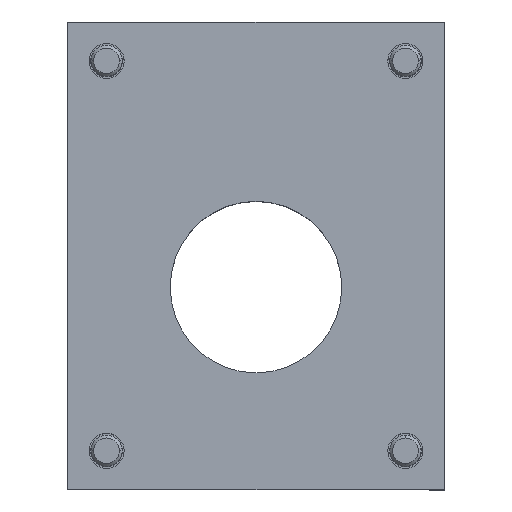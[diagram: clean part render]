
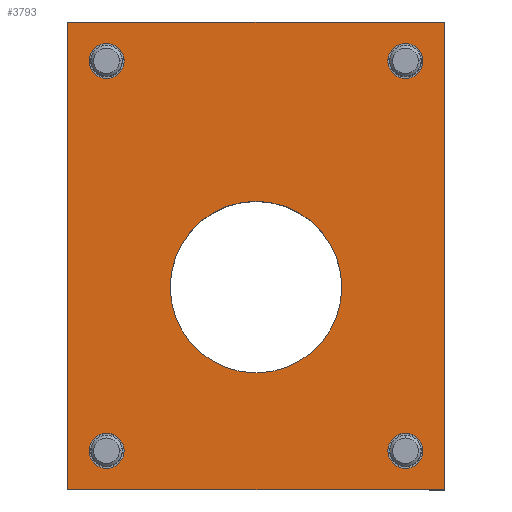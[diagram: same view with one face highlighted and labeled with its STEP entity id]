
A CAD part, top view. The second image highlights one B-rep face of the part: STEP entity #3793.
In plain terms, the highlighted planar face has unit normal (0, 0, 1).
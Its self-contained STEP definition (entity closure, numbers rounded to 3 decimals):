
#5 = VERTEX_POINT ( 'NONE', #2284 ) ;
#26 = AXIS2_PLACEMENT_3D ( 'NONE', #1117, #2102, #3044 ) ;
#90 = PLANE ( 'NONE',  #3304 ) ;
#93 = CARTESIAN_POINT ( 'NONE',  ( -57.5, -69.75, -49.5 ) ) ;
#95 = EDGE_CURVE ( 'NONE', #2190, #4000, #3979, .T. ) ;
#130 = CARTESIAN_POINT ( 'NONE',  ( -72.5, -78., -49.5 ) ) ;
#136 = ORIENTED_EDGE ( 'NONE', *, *, #3661, .F. ) ;
#156 = AXIS2_PLACEMENT_3D ( 'NONE', #1658, #3271, #2929 ) ;
#162 = CIRCLE ( 'NONE', #2694, 6.75 ) ;
#170 = DIRECTION ( 'NONE',  ( 0., 0., -1. ) ) ;
#237 = DIRECTION ( 'NONE',  ( 0., 1., 0. ) ) ;
#278 = CARTESIAN_POINT ( 'NONE',  ( -57.5, -63., -49.5 ) ) ;
#280 = VERTEX_POINT ( 'NONE', #953 ) ;
#286 = EDGE_CURVE ( 'NONE', #3547, #2820, #1435, .T. ) ;
#420 = ORIENTED_EDGE ( 'NONE', *, *, #2194, .F. ) ;
#445 = VERTEX_POINT ( 'NONE', #486 ) ;
#485 = AXIS2_PLACEMENT_3D ( 'NONE', #3041, #170, #3697 ) ;
#486 = CARTESIAN_POINT ( 'NONE',  ( -72.5, -78., -49.5 ) ) ;
#519 = VERTEX_POINT ( 'NONE', #841 ) ;
#611 = CIRCLE ( 'NONE', #2547, 6.75 ) ;
#646 = ORIENTED_EDGE ( 'NONE', *, *, #983, .T. ) ;
#714 = FACE_BOUND ( 'NONE', #3010, .T. ) ;
#736 = ORIENTED_EDGE ( 'NONE', *, *, #893, .F. ) ;
#779 = CARTESIAN_POINT ( 'NONE',  ( 57.5, 93.75, -49.5 ) ) ;
#841 = CARTESIAN_POINT ( 'NONE',  ( -57.5, -56.25, -49.5 ) ) ;
#873 = ORIENTED_EDGE ( 'NONE', *, *, #95, .T. ) ;
#887 = DIRECTION ( 'NONE',  ( 0., 0., -1. ) ) ;
#893 = EDGE_CURVE ( 'NONE', #280, #4045, #3339, .T. ) ;
#953 = CARTESIAN_POINT ( 'NONE',  ( 72.5, 102., -49.5 ) ) ;
#962 = CIRCLE ( 'NONE', #156, 6.75 ) ;
#968 = EDGE_CURVE ( 'NONE', #2197, #519, #1029, .T. ) ;
#983 = EDGE_CURVE ( 'NONE', #3822, #2253, #2562, .T. ) ;
#1029 = CIRCLE ( 'NONE', #2498, 6.75 ) ;
#1056 = CARTESIAN_POINT ( 'NONE',  ( -57.5, 87., -49.5 ) ) ;
#1107 = ORIENTED_EDGE ( 'NONE', *, *, #3042, .T. ) ;
#1117 = CARTESIAN_POINT ( 'NONE',  ( 0., 0., -49.5 ) ) ;
#1124 = DIRECTION ( 'NONE',  ( 0., 0., -1. ) ) ;
#1171 = LINE ( 'NONE', #2440, #3703 ) ;
#1225 = EDGE_CURVE ( 'NONE', #3395, #2863, #162, .T. ) ;
#1249 = CARTESIAN_POINT ( 'NONE',  ( 72.5, -78., -49.5 ) ) ;
#1278 = DIRECTION ( 'NONE',  ( 0., 0., -1. ) ) ;
#1302 = AXIS2_PLACEMENT_3D ( 'NONE', #3496, #2230, #3520 ) ;
#1306 = VECTOR ( 'NONE', #3698, 1000. ) ;
#1325 = EDGE_CURVE ( 'NONE', #4000, #2190, #1684, .T. ) ;
#1338 = CARTESIAN_POINT ( 'NONE',  ( 57.5, -56.25, -49.5 ) ) ;
#1348 = EDGE_LOOP ( 'NONE', ( #3576, #873 ) ) ;
#1372 = DIRECTION ( 'NONE',  ( -1., 0., 0. ) ) ;
#1407 = DIRECTION ( 'NONE',  ( 0., -1., 0. ) ) ;
#1435 = CIRCLE ( 'NONE', #1302, 6.75 ) ;
#1438 = CARTESIAN_POINT ( 'NONE',  ( 57.5, -69.75, -49.5 ) ) ;
#1473 = DIRECTION ( 'NONE',  ( 0., 0., -1. ) ) ;
#1496 = CIRCLE ( 'NONE', #485, 33. ) ;
#1555 = DIRECTION ( 'NONE',  ( 0., 0., -1. ) ) ;
#1622 = CIRCLE ( 'NONE', #2081, 6.75 ) ;
#1658 = CARTESIAN_POINT ( 'NONE',  ( 57.5, 87., -49.5 ) ) ;
#1679 = FACE_BOUND ( 'NONE', #2826, .T. ) ;
#1684 = CIRCLE ( 'NONE', #2415, 6.75 ) ;
#1724 = LINE ( 'NONE', #130, #3446 ) ;
#1736 = CARTESIAN_POINT ( 'NONE',  ( 57.5, -63., -49.5 ) ) ;
#1776 = CARTESIAN_POINT ( 'NONE',  ( 0., 33., -49.5 ) ) ;
#1902 = LINE ( 'NONE', #2857, #3031 ) ;
#1926 = CARTESIAN_POINT ( 'NONE',  ( -57.5, 80.25, -49.5 ) ) ;
#2001 = CARTESIAN_POINT ( 'NONE',  ( 57.5, 80.25, -49.5 ) ) ;
#2062 = ORIENTED_EDGE ( 'NONE', *, *, #3511, .F. ) ;
#2081 = AXIS2_PLACEMENT_3D ( 'NONE', #278, #1555, #237 ) ;
#2102 = DIRECTION ( 'NONE',  ( 0., 0., -1. ) ) ;
#2190 = VERTEX_POINT ( 'NONE', #1438 ) ;
#2194 = EDGE_CURVE ( 'NONE', #4045, #445, #1724, .T. ) ;
#2197 = VERTEX_POINT ( 'NONE', #93 ) ;
#2230 = DIRECTION ( 'NONE',  ( 0., 0., -1. ) ) ;
#2253 = VERTEX_POINT ( 'NONE', #1776 ) ;
#2284 = CARTESIAN_POINT ( 'NONE',  ( -72.5, 102., -49.5 ) ) ;
#2299 = ORIENTED_EDGE ( 'NONE', *, *, #2645, .T. ) ;
#2301 = FACE_BOUND ( 'NONE', #1348, .T. ) ;
#2367 = FACE_BOUND ( 'NONE', #3429, .T. ) ;
#2415 = AXIS2_PLACEMENT_3D ( 'NONE', #1736, #1473, #3942 ) ;
#2418 = EDGE_CURVE ( 'NONE', #2863, #3395, #962, .T. ) ;
#2426 = ORIENTED_EDGE ( 'NONE', *, *, #286, .T. ) ;
#2440 = CARTESIAN_POINT ( 'NONE',  ( 72.5, 102., -49.5 ) ) ;
#2472 = CARTESIAN_POINT ( 'NONE',  ( 57.5, -63., -49.5 ) ) ;
#2496 = AXIS2_PLACEMENT_3D ( 'NONE', #2472, #887, #4064 ) ;
#2498 = AXIS2_PLACEMENT_3D ( 'NONE', #3323, #3405, #3995 ) ;
#2529 = ORIENTED_EDGE ( 'NONE', *, *, #2418, .T. ) ;
#2547 = AXIS2_PLACEMENT_3D ( 'NONE', #1056, #1124, #4003 ) ;
#2562 = CIRCLE ( 'NONE', #26, 33. ) ;
#2640 = DIRECTION ( 'NONE',  ( 0., 0., 1. ) ) ;
#2645 = EDGE_CURVE ( 'NONE', #2253, #3822, #1496, .T. ) ;
#2656 = CARTESIAN_POINT ( 'NONE',  ( 72.5, -78., -49.5 ) ) ;
#2694 = AXIS2_PLACEMENT_3D ( 'NONE', #2886, #1278, #3838 ) ;
#2820 = VERTEX_POINT ( 'NONE', #1926 ) ;
#2826 = EDGE_LOOP ( 'NONE', ( #2994, #2529 ) ) ;
#2857 = CARTESIAN_POINT ( 'NONE',  ( -72.5, 102., -49.5 ) ) ;
#2863 = VERTEX_POINT ( 'NONE', #2001 ) ;
#2886 = CARTESIAN_POINT ( 'NONE',  ( 57.5, 87., -49.5 ) ) ;
#2929 = DIRECTION ( 'NONE',  ( 0., 1., 0. ) ) ;
#2945 = EDGE_LOOP ( 'NONE', ( #2062, #136, #420, #736 ) ) ;
#2994 = ORIENTED_EDGE ( 'NONE', *, *, #1225, .T. ) ;
#3010 = EDGE_LOOP ( 'NONE', ( #1107, #4120 ) ) ;
#3031 = VECTOR ( 'NONE', #4149, 1000. ) ;
#3041 = CARTESIAN_POINT ( 'NONE',  ( 0., 0., -49.5 ) ) ;
#3042 = EDGE_CURVE ( 'NONE', #519, #2197, #1622, .T. ) ;
#3044 = DIRECTION ( 'NONE',  ( 0., 1., 0. ) ) ;
#3271 = DIRECTION ( 'NONE',  ( 0., 0., -1. ) ) ;
#3273 = EDGE_CURVE ( 'NONE', #2820, #3547, #611, .T. ) ;
#3278 = CARTESIAN_POINT ( 'NONE',  ( 0., 12., -49.5 ) ) ;
#3303 = EDGE_LOOP ( 'NONE', ( #2299, #646 ) ) ;
#3304 = AXIS2_PLACEMENT_3D ( 'NONE', #3278, #2640, #1407 ) ;
#3323 = CARTESIAN_POINT ( 'NONE',  ( -57.5, -63., -49.5 ) ) ;
#3339 = LINE ( 'NONE', #2656, #1306 ) ;
#3395 = VERTEX_POINT ( 'NONE', #779 ) ;
#3405 = DIRECTION ( 'NONE',  ( 0., 0., -1. ) ) ;
#3429 = EDGE_LOOP ( 'NONE', ( #2426, #4021 ) ) ;
#3446 = VECTOR ( 'NONE', #1372, 1000. ) ;
#3496 = CARTESIAN_POINT ( 'NONE',  ( -57.5, 87., -49.5 ) ) ;
#3511 = EDGE_CURVE ( 'NONE', #5, #280, #1171, .T. ) ;
#3520 = DIRECTION ( 'NONE',  ( 0., 1., 0. ) ) ;
#3547 = VERTEX_POINT ( 'NONE', #3549 ) ;
#3549 = CARTESIAN_POINT ( 'NONE',  ( -57.5, 93.75, -49.5 ) ) ;
#3576 = ORIENTED_EDGE ( 'NONE', *, *, #1325, .T. ) ;
#3660 = FACE_OUTER_BOUND ( 'NONE', #2945, .T. ) ;
#3661 = EDGE_CURVE ( 'NONE', #445, #5, #1902, .T. ) ;
#3697 = DIRECTION ( 'NONE',  ( 0., 1., 0. ) ) ;
#3698 = DIRECTION ( 'NONE',  ( 0., -1., 0. ) ) ;
#3703 = VECTOR ( 'NONE', #3750, 1000. ) ;
#3750 = DIRECTION ( 'NONE',  ( 1., 0., 0. ) ) ;
#3793 = ADVANCED_FACE ( 'NONE', ( #3907, #2367, #2301, #714, #1679, #3660 ), #90, .T. ) ;
#3822 = VERTEX_POINT ( 'NONE', #4017 ) ;
#3838 = DIRECTION ( 'NONE',  ( 0., 1., 0. ) ) ;
#3907 = FACE_BOUND ( 'NONE', #3303, .T. ) ;
#3942 = DIRECTION ( 'NONE',  ( 0., 1., 0. ) ) ;
#3979 = CIRCLE ( 'NONE', #2496, 6.75 ) ;
#3995 = DIRECTION ( 'NONE',  ( 0., 1., 0. ) ) ;
#4000 = VERTEX_POINT ( 'NONE', #1338 ) ;
#4003 = DIRECTION ( 'NONE',  ( 0., 1., 0. ) ) ;
#4017 = CARTESIAN_POINT ( 'NONE',  ( 0., -33., -49.5 ) ) ;
#4021 = ORIENTED_EDGE ( 'NONE', *, *, #3273, .T. ) ;
#4045 = VERTEX_POINT ( 'NONE', #1249 ) ;
#4064 = DIRECTION ( 'NONE',  ( 0., 1., 0. ) ) ;
#4120 = ORIENTED_EDGE ( 'NONE', *, *, #968, .T. ) ;
#4149 = DIRECTION ( 'NONE',  ( 0., 1., 0. ) ) ;
